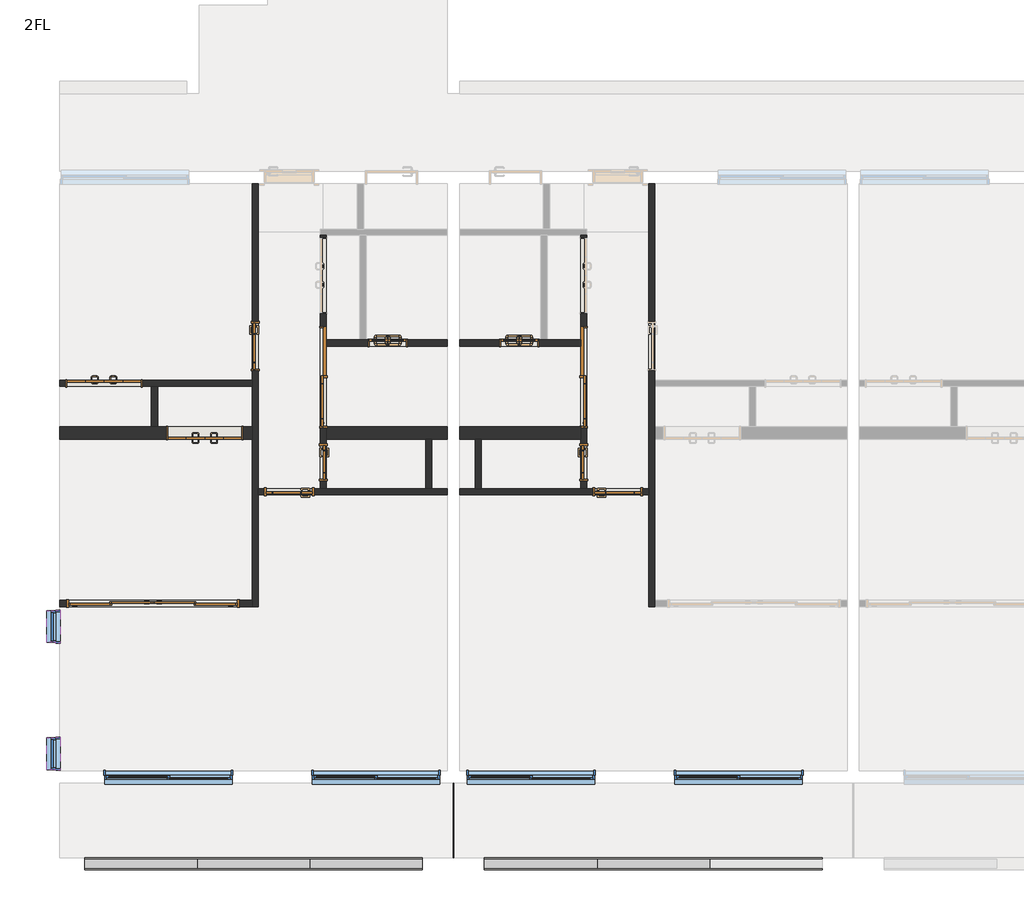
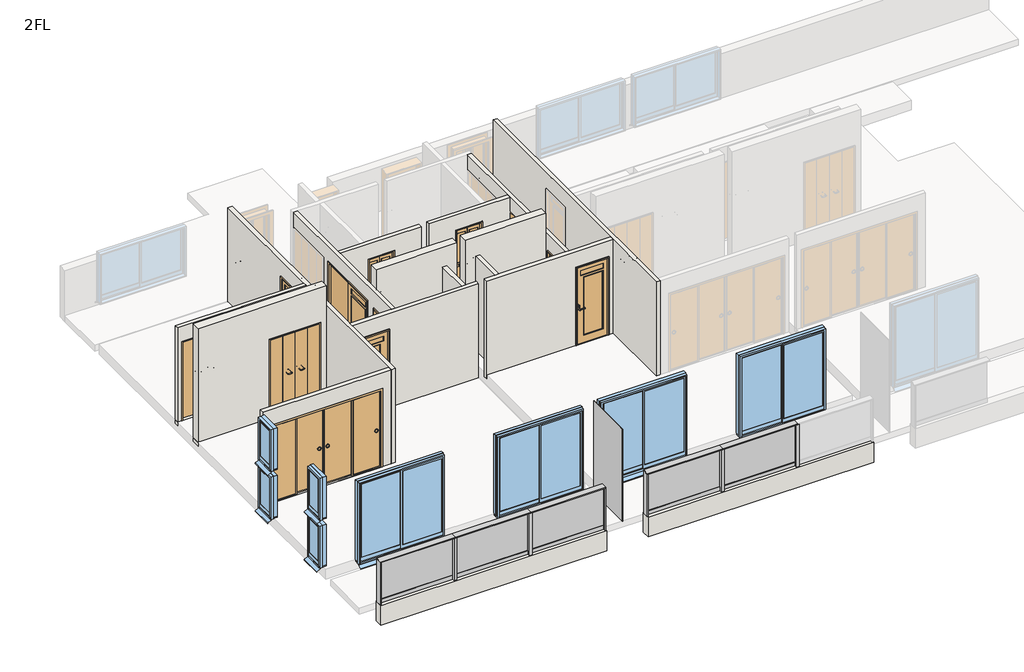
# One storey, part 1 of 3: 18 walls, 12 doors, 12 members, 8 windows, 6 plates.
"""IFC4 building model written with IfcOpenShell, lengths in millimetres."""

from ifc_helpers import new_model, si_unit, frame, origin, place, context, project, spatial, polyline, outline, extrude, faceted_brep, transform, mapped, element, save
from components import w1200h2000_6a144d60, w1200h2000_98cacc9b, w1600h2000_4c3c234a, w1600h2000_ca690e72, w2800h2000_670b855b, w600h2000_7f2747f4, w600h2000_6a266bef, w600h2000_94bb9c3c, w600h2000_8ea70a65, w800h2000_13e9f519, w800h2000_ccb03061, member_25x150_3f8205e2, member_25x150_f694351b, member_70x150_851c8a9b, plate_9f48129f, plate_365944b3, plate_cef4847d, window_2000x2000_f1ff98da, window_450x1000_e0a5e2da

model = new_model("IFC4")

# Units and contexts
model_context = context("Model", 3, world=origin())
ifc_project = project(units=[si_unit("LENGTHUNIT", "METRE", prefix="MILLI")], contexts=[model_context])

# Site, building, storey
site = spatial("IfcSite", under=ifc_project)
building = spatial("IfcBuilding", under=site)
storey = spatial("IfcBuildingStorey", under=building, Name="2FL", Elevation=4000.0)

# Doors
placement = place(None, origin())
w1200h2000_shape = w1200h2000_6a144d60(model_context)
element("IfcDoor", 1, ObjectType="木製折戸 : w1200h2000", at=placement, inside=storey, context=model_context, shape_type="MappedRepresentation", body=[
    mapped(w1200h2000_shape, transform((-10366.2187246, -9020.1171638, 4100.0), x_axis=(1.0, 0.0, 0.0), y_axis=(0.0, 1.0, 0.0), z_axis=(0.0, 0.0, 1.0))),
])
w1200h2000_2_shape = w1200h2000_98cacc9b(model_context)
element("IfcDoor", 2, ObjectType="木製折戸 : w1200h2000", at=placement, inside=storey, context=model_context, shape_type="MappedRepresentation", body=[
    mapped(w1200h2000_2_shape, transform((-8741.2187246, -9820.1171638, 4100.0), x_axis=(-1.0, 0.0, 0.0), y_axis=(0.0, -1.0, 0.0), z_axis=(0.0, 0.0, 1.0))),
])
w1600h2000_shape = w1600h2000_4c3c234a(model_context)
element("IfcDoor", 3, ObjectType="片引戸CL2017 : w1600h2000", at=placement, inside=storey, context=model_context, shape_type="MappedRepresentation", body=[
    mapped(w1600h2000_shape, transform((-6828.7187246, -8920.1171638, 4100.0), x_axis=(0.0, -1.0, 0.0), y_axis=(1.0, 0.0, 0.0), z_axis=(0.0, 0.0, 1.0))),
])
w1600h2000_2_shape = w1600h2000_ca690e72(model_context)
element("IfcDoor", 4, ObjectType="片引戸CL2017 : w1600h2000", at=placement, inside=storey, context=model_context, shape_type="MappedRepresentation", body=[
    mapped(w1600h2000_2_shape, transform((-2628.7187246, -8920.1171638, 4100.0), x_axis=(0.0, -1.0, 0.0), y_axis=(1.0, 0.0, 0.0), z_axis=(0.0, 0.0, 1.0))),
])
w2800h2000_shape = w2800h2000_670b855b(model_context)
element("IfcDoor", 5, ObjectType="引違い 4 枚 2 溝_襖 : w2800h2000", at=placement, inside=storey, context=model_context, shape_type="MappedRepresentation", body=[
    mapped(w2800h2000_shape, transform((-9584.2542286, -12570.1171638, 4100.0), x_axis=(-1.0, 0.0, 0.0), y_axis=(0.0, -1.0, 0.0), z_axis=(0.0, 0.0, 1.0))),
])
w600h2000_shape = w600h2000_7f2747f4(model_context)
element("IfcDoor", 6, ObjectType="片開戸CL2058 : w600h2000", at=placement, inside=storey, context=model_context, shape_type="MappedRepresentation", body=[
    mapped(w600h2000_shape, transform((-6828.7187246, -10295.1171638, 4100.0), x_axis=(0.0, -1.0, 0.0), y_axis=(1.0, 0.0, 0.0), z_axis=(0.0, 0.0, 1.0))),
])
w600h2000_2_shape = w600h2000_6a266bef(model_context)
element("IfcDoor", 7, ObjectType="浴室折戸 : w600h2000", at=placement, inside=storey, context=model_context, shape_type="MappedRepresentation", body=[
    mapped(w600h2000_2_shape, transform((-5788.7187246, -8370.1171638, 4100.0), x_axis=(1.0, 0.0, 0.0), y_axis=(0.0, 1.0, 0.0), z_axis=(0.0, 0.0, 1.0))),
])
w600h2000_3_shape = w600h2000_94bb9c3c(model_context)
element("IfcDoor", 8, ObjectType="浴室折戸 : w600h2000", at=placement, inside=storey, context=model_context, shape_type="MappedRepresentation", body=[
    mapped(w600h2000_3_shape, transform((-3668.7187246, -8370.1171638, 4100.0), x_axis=(-1.0, 0.0, 0.0), y_axis=(0.0, -1.0, 0.0), z_axis=(0.0, 0.0, 1.0))),
])
w600h2000_4_shape = w600h2000_8ea70a65(model_context)
element("IfcDoor", 9, ObjectType="片開戸CL2058 : w600h2000", at=placement, inside=storey, context=model_context, shape_type="MappedRepresentation", body=[
    mapped(w600h2000_4_shape, transform((-2628.7187246, -10295.1171638, 4100.0), x_axis=(0.0, -1.0, 0.0), y_axis=(1.0, 0.0, 0.0), z_axis=(0.0, 0.0, 1.0))),
])
w800h2000_shape = w800h2000_13e9f519(model_context)
element("IfcDoor", 10, ObjectType="片開戸CL2058 : w800h2000", at=placement, inside=storey, context=model_context, shape_type="MappedRepresentation", body=[
    mapped(w800h2000_shape, transform((-7928.7187246, -8420.1171638, 4100.0), x_axis=(0.0, -1.0, 0.0), y_axis=(1.0, 0.0, 0.0), z_axis=(0.0, 0.0, 1.0))),
])
element("IfcDoor", 11, ObjectType="片開戸CL2058 : w800h2000", at=placement, inside=storey, context=model_context, shape_type="MappedRepresentation", body=[
    mapped(w800h2000_shape, transform((-2078.7187246, -10770.1171638, 4100.0), x_axis=(1.0, 0.0, 0.0), y_axis=(0.0, 1.0, 0.0), z_axis=(0.0, 0.0, 1.0))),
])
w800h2000_2_shape = w800h2000_ccb03061(model_context)
element("IfcDoor", 12, ObjectType="片開戸CL2058 : w800h2000", at=placement, inside=storey, context=model_context, shape_type="MappedRepresentation", body=[
    mapped(w800h2000_2_shape, transform((-7378.7187246, -10770.1171638, 4100.0), x_axis=(-1.0, 0.0, 0.0), y_axis=(0.0, -1.0, 0.0), z_axis=(0.0, 0.0, 1.0))),
])

# Members
member_25x150_shape = member_25x150_3f8205e2(model_context)
element("IfcMember", 13, ObjectType="長方形のマリオン : 25x150", at=placement, inside=storey, context=model_context, shape_type="MappedRepresentation", body=[
    mapped(member_25x150_shape, transform((-5228.7187246, -16770.1171638, 4000.0), x_axis=(1.0, 0.0, 0.0), y_axis=(0.0, -1.0, 0.0), z_axis=(0.0, 0.0, -1.0))),
])
element("IfcMember", 14, ObjectType="長方形のマリオン : 25x150", at=placement, inside=storey, context=model_context, shape_type="MappedRepresentation", body=[
    mapped(member_25x150_shape, transform((-10678.7187246, -16770.1171638, 5075.0), x_axis=(-1.0, 0.0, 0.0), y_axis=(0.0, -1.0, 0.0), z_axis=(0.0, 0.0, 1.0))),
])
element("IfcMember", 15, ObjectType="長方形のマリオン : 25x150", at=placement, inside=storey, context=model_context, shape_type="MappedRepresentation", body=[
    mapped(member_25x150_shape, transform((-4228.7187246, -16770.1171638, 5075.0), x_axis=(-1.0, 0.0, 0.0), y_axis=(0.0, -1.0, 0.0), z_axis=(0.0, 0.0, 1.0))),
])
member_25x150_2_shape = member_25x150_f694351b(model_context)
element("IfcMember", 16, ObjectType="長方形のマリオン : 25x150", at=placement, inside=storey, context=model_context, shape_type="MappedRepresentation", body=[
    mapped(member_25x150_2_shape, transform((-5228.7187246, -16770.1171638, 5100.0), x_axis=(0.0, 0.0, 1.0), y_axis=(0.0, -1.0, 0.0), z_axis=(1.0, 0.0, 0.0))),
])
element("IfcMember", 17, ObjectType="長方形のマリオン : 25x150", at=placement, inside=storey, context=model_context, shape_type="MappedRepresentation", body=[
    mapped(member_25x150_2_shape, transform((-8862.052058, -16770.1171638, 5100.0), x_axis=(0.0, 0.0, 1.0), y_axis=(0.0, -1.0, 0.0), z_axis=(1.0, 0.0, 0.0))),
])
element("IfcMember", 18, ObjectType="長方形のマリオン : 25x150", at=placement, inside=storey, context=model_context, shape_type="MappedRepresentation", body=[
    mapped(member_25x150_2_shape, transform((-2412.052058, -16770.1171638, 5100.0), x_axis=(0.0, 0.0, 1.0), y_axis=(0.0, -1.0, 0.0), z_axis=(1.0, 0.0, 0.0))),
])
element("IfcMember", 19, ObjectType="長方形のマリオン : 25x150", at=placement, inside=storey, context=model_context, shape_type="MappedRepresentation", body=[
    mapped(member_25x150_2_shape, transform((-7045.3853913, -16770.1171638, 5100.0), x_axis=(0.0, 0.0, 1.0), y_axis=(0.0, -1.0, 0.0), z_axis=(1.0, 0.0, 0.0))),
])
element("IfcMember", 20, ObjectType="長方形のマリオン : 25x150", at=placement, inside=storey, context=model_context, shape_type="MappedRepresentation", body=[
    mapped(member_25x150_2_shape, transform((-595.3853913, -16770.1171638, 5100.0), x_axis=(0.0, 0.0, 1.0), y_axis=(0.0, -1.0, 0.0), z_axis=(1.0, 0.0, 0.0))),
])
member_70x150_shape = member_70x150_851c8a9b(model_context)
element("IfcMember", 21, ObjectType="長方形のマリオン : 70x150", at=placement, inside=storey, context=model_context, shape_type="MappedRepresentation", body=[
    mapped(member_70x150_shape, transform((-8862.052058, -16770.1171638, 4000.0), x_axis=(1.0, 0.0, 0.0), y_axis=(0.0, -1.0, 0.0), z_axis=(0.0, 0.0, -1.0))),
])
element("IfcMember", 22, ObjectType="長方形のマリオン : 70x150", at=placement, inside=storey, context=model_context, shape_type="MappedRepresentation", body=[
    mapped(member_70x150_shape, transform((-7045.3853913, -16770.1171638, 4000.0), x_axis=(1.0, 0.0, 0.0), y_axis=(0.0, -1.0, 0.0), z_axis=(0.0, 0.0, -1.0))),
])
element("IfcMember", 23, ObjectType="長方形のマリオン : 70x150", at=placement, inside=storey, context=model_context, shape_type="MappedRepresentation", body=[
    mapped(member_70x150_shape, transform((-2412.052058, -16770.1171638, 4000.0), x_axis=(1.0, 0.0, 0.0), y_axis=(0.0, -1.0, 0.0), z_axis=(0.0, 0.0, -1.0))),
])
element("IfcMember", 24, ObjectType="長方形のマリオン : 70x150", at=placement, inside=storey, context=model_context, shape_type="MappedRepresentation", body=[
    mapped(member_70x150_shape, transform((-595.3853913, -16770.1171638, 4000.0), x_axis=(1.0, 0.0, 0.0), y_axis=(0.0, -1.0, 0.0), z_axis=(0.0, 0.0, -1.0))),
])

# Plates
plate_shape = plate_9f48129f(model_context)
element("IfcPlate", 25, ObjectType="r パネル FIX 下框付 : 框 H100", at=placement, inside=storey, context=model_context, shape_type="MappedRepresentation", body=[
    mapped(plate_shape, transform((-9775.3853913, -16770.1171638, 4000.0), x_axis=(1.0, 0.0, 0.0), y_axis=(0.0, 1.0, 0.0), z_axis=(0.0, 0.0, 1.0))),
])
element("IfcPlate", 26, ObjectType="r パネル FIX 下框付 : 框 H100", at=placement, inside=storey, context=model_context, shape_type="MappedRepresentation", body=[
    mapped(plate_shape, transform((-6132.052058, -16770.1171638, 4000.0), x_axis=(1.0, 0.0, 0.0), y_axis=(0.0, 1.0, 0.0), z_axis=(0.0, 0.0, 1.0))),
])
element("IfcPlate", 27, ObjectType="r パネル FIX 下框付 : 框 H100", at=placement, inside=storey, context=model_context, shape_type="MappedRepresentation", body=[
    mapped(plate_shape, transform((-3325.3853913, -16770.1171638, 4000.0), x_axis=(1.0, 0.0, 0.0), y_axis=(0.0, 1.0, 0.0), z_axis=(0.0, 0.0, 1.0))),
])
plate_2_shape = plate_365944b3(model_context)
element("IfcPlate", 28, ObjectType="r パネル FIX 下框付 : 框 H100", at=placement, inside=storey, context=model_context, shape_type="MappedRepresentation", body=[
    mapped(plate_2_shape, transform((-7953.7187246, -16770.1171638, 4000.0), x_axis=(1.0, 0.0, 0.0), y_axis=(0.0, 1.0, 0.0), z_axis=(0.0, 0.0, 1.0))),
])
element("IfcPlate", 29, ObjectType="r パネル FIX 下框付 : 框 H100", at=placement, inside=storey, context=model_context, shape_type="MappedRepresentation", body=[
    mapped(plate_2_shape, transform((-1503.7187246, -16770.1171638, 4000.0), x_axis=(1.0, 0.0, 0.0), y_axis=(0.0, 1.0, 0.0), z_axis=(0.0, 0.0, 1.0))),
])
plate_3_shape = plate_cef4847d(model_context)
element("IfcPlate", 30, ObjectType="システム パネル : 標準", at=placement, inside=storey, context=model_context, shape_type="MappedRepresentation", body=[
    mapped(plate_3_shape, transform((-4728.7187246, -16070.1171638, 3950.0), x_axis=(0.0, -1.0, 0.0), y_axis=(1.0, 0.0, 0.0), z_axis=(0.0, 0.0, 1.0))),
])

# Walls
element("IfcWall", 31, ObjectType="(R)RC200", at=placement, inside=storey, context=model_context, shape_type="Brep", body=[
    faceted_brep([(-11078.7187246, -9920.1171638, 4000.0), (-7978.7187246, -9920.1171638, 4000.0), (-7978.7187246, -9920.1171638, 7000.0), (-11078.7187246, -9920.1171638, 7000.0), (-9361.2187246, -9920.1171638, 6120.0), (-8121.2187246, -9920.1171638, 6120.0), (-8121.2187246, -9920.1171638, 4100.0), (-9361.2187246, -9920.1171638, 4100.0), (-11078.7187246, -9720.1171638, 4000.0), (-11078.7187246, -9720.1171638, 7000.0), (-7978.7187246, -9720.1171638, 7000.0), (-7978.7187246, -9720.1171638, 4000.0), (-9503.7187246, -9720.1171638, 4000.0), (-9603.7187246, -9720.1171638, 4000.0), (-9361.2187246, -9720.1171638, 6120.0), (-9361.2187246, -9720.1171638, 4100.0), (-8121.2187246, -9720.1171638, 4100.0), (-8121.2187246, -9720.1171638, 6120.0)], [[[0, 1, 2, 3], [4, 5, 6, 7]], [[8, 9, 10, 11, 12, 13], [14, 15, 16, 17]], [[1, 0, 8, 13, 12, 11]], [[3, 2, 10, 9]], [[2, 1, 11, 10]], [[15, 14, 4, 7]], [[16, 15, 7, 6]], [[17, 16, 6, 5]], [[14, 17, 5, 4]], [[0, 3, 9, 8]]]),
])
element("IfcWall", 32, ObjectType="(R)RC200", at=placement, inside=storey, context=model_context, shape_type="Brep", body=[
    faceted_brep([(-6778.7187246, -9920.1171638, 4000.0), (-5178.7187246, -9920.1171638, 4000.0), (-5078.7187246, -9920.1171638, 4000.0), (-4828.7187246, -9920.1171638, 4000.0), (-4828.7187246, -9920.1171638, 7000.0), (-6778.7187246, -9920.1171638, 7000.0), (-6778.7187246, -9720.1171638, 4000.0), (-6778.7187246, -9720.1171638, 7000.0), (-4828.7187246, -9720.1171638, 7000.0), (-4828.7187246, -9720.1171638, 4000.0)], [[[0, 1, 2, 3, 4, 5]], [[6, 7, 8, 9]], [[3, 2, 1, 0, 6, 9]], [[5, 4, 8, 7]], [[0, 5, 7, 6]], [[4, 3, 9, 8]]]),
])
element("IfcWall", 33, ObjectType="(R)RC200", at=placement, inside=storey, context=model_context, shape_type="Brep", body=[
    faceted_brep([(-2678.7187246, -9720.1171638, 4000.0), (-4628.7187246, -9720.1171638, 4000.0), (-4628.7187246, -9720.1171638, 7000.0), (-2678.7187246, -9720.1171638, 7000.0), (-2678.7187246, -9920.1171638, 4000.0), (-2678.7187246, -9920.1171638, 7000.0), (-4628.7187246, -9920.1171638, 7000.0), (-4628.7187246, -9920.1171638, 4000.0), (-4378.7187246, -9920.1171638, 4000.0), (-4278.7187246, -9920.1171638, 4000.0)], [[[0, 1, 2, 3]], [[4, 5, 6, 7, 8, 9]], [[1, 0, 4, 9, 8, 7]], [[3, 2, 6, 5]], [[0, 3, 5, 4]], [[2, 1, 7, 6]]]),
])
element("IfcWall", 34, ObjectType="(R)RC200", at=placement, inside=storey, context=model_context, shape_type="SweptSolid", body=[
    extrude(outline(polyline([(-5228.7187246, -16870.1171638), (-10678.7187246, -16870.1171638), (-10678.7187246, -16670.1171638), (-5228.7187246, -16670.1171638), (-5228.7187246, -16870.1171638)])), frame((0.0, 0.0, 3500.0), z_axis=(0.0, 0.0, 1.0), x_axis=(1.0, 0.0, 0.0)), (0.0, 0.0, 1.0), 500.0),
])
element("IfcWall", 35, ObjectType="(R)RC200", at=placement, inside=storey, context=model_context, shape_type="SweptSolid", body=[
    extrude(outline(polyline([(1221.2812754, -16870.1171638), (-4228.7187246, -16870.1171638), (-4228.7187246, -16670.1171638), (1221.2812754, -16670.1171638), (1221.2812754, -16870.1171638)])), frame((0.0, 0.0, 3500.0), z_axis=(0.0, 0.0, 1.0), x_axis=(1.0, 0.0, 0.0)), (0.0, 0.0, 1.0), 500.0),
])
element("IfcWall", 36, ObjectType="(L1)LGS100", at=placement, inside=storey, context=model_context, shape_type="Brep", body=[
    faceted_brep([(-11078.7187246, -9070.1171638, 4000.0), (-9603.7187246, -9070.1171638, 4000.0), (-9503.7187246, -9070.1171638, 4000.0), (-7978.7187246, -9070.1171638, 4000.0), (-7978.7187246, -9070.1171638, 6500.0), (-9503.7187246, -9070.1171638, 6500.0), (-9603.7187246, -9070.1171638, 6500.0), (-11078.7187246, -9070.1171638, 6500.0), (-9746.2187246, -9070.1171638, 6120.0), (-9746.2187246, -9070.1171638, 4100.0), (-10986.2187246, -9070.1171638, 4100.0), (-10986.2187246, -9070.1171638, 6120.0), (-7978.7187246, -8970.1171638, 4000.0), (-11078.7187246, -8970.1171638, 4000.0), (-11078.7187246, -8970.1171638, 6500.0), (-7978.7187246, -8970.1171638, 6500.0), (-9746.2187246, -8970.1171638, 4100.0), (-9746.2187246, -8970.1171638, 6120.0), (-10986.2187246, -8970.1171638, 6120.0), (-10986.2187246, -8970.1171638, 4100.0)], [[[0, 1, 2, 3, 4, 5, 6, 7], [8, 9, 10, 11]], [[12, 13, 14, 15], [16, 17, 18, 19]], [[3, 2, 1, 0, 13, 12]], [[7, 6, 5, 4, 15, 14]], [[4, 3, 12, 15]], [[8, 17, 16, 9]], [[9, 16, 19, 10]], [[17, 8, 11, 18]], [[18, 11, 10, 19]], [[0, 7, 14, 13]]]),
])
element("IfcWall", 37, ObjectType="(L1)LGS100", at=placement, inside=storey, context=model_context, shape_type="SweptSolid", body=[
    extrude(outline(polyline([(-9503.7187246, -9070.1171638), (-9503.7187246, -9720.1171638), (-9603.7187246, -9720.1171638), (-9603.7187246, -9070.1171638), (-9503.7187246, -9070.1171638)])), frame((0.0, 0.0, 4000.0), z_axis=(0.0, 0.0, 1.0), x_axis=(1.0, 0.0, 0.0)), (0.0, 0.0, 1.0), 2500.0),
])
element("IfcWall", 38, ObjectType="(L1)LGS100", at=placement, inside=storey, context=model_context, shape_type="Brep", body=[
    faceted_brep([(-7878.7187246, -12620.1171638, 4000.0), (-7878.7187246, -10820.1171638, 4000.0), (-7878.7187246, -10720.1171638, 4000.0), (-7878.7187246, -5800.1171638, 4000.0), (-7878.7187246, -5800.1171638, 6500.0), (-7878.7187246, -10720.1171638, 6500.0), (-7878.7187246, -10820.1171638, 6500.0), (-7878.7187246, -12620.1171638, 6500.0), (-7878.7187246, -8820.1171638, 4100.0), (-7878.7187246, -8820.1171638, 6100.0), (-7878.7187246, -8020.1171638, 6100.0), (-7878.7187246, -8020.1171638, 4100.0), (-7978.7187246, -12620.1171638, 4000.0), (-7978.7187246, -12620.1171638, 6500.0), (-7978.7187246, -12520.1171638, 6500.0), (-7978.7187246, -9070.1171638, 6500.0), (-7978.7187246, -8970.1171638, 6500.0), (-7978.7187246, -5800.1171638, 6500.0), (-7978.7187246, -5800.1171638, 4000.0), (-7978.7187246, -8970.1171638, 4000.0), (-7978.7187246, -9070.1171638, 4000.0), (-7978.7187246, -9720.1171638, 4000.0), (-7978.7187246, -9920.1171638, 4000.0), (-7978.7187246, -12520.1171638, 4000.0), (-7978.7187246, -8820.1171638, 4100.0), (-7978.7187246, -8020.1171638, 4100.0), (-7978.7187246, -8020.1171638, 6100.0), (-7978.7187246, -8820.1171638, 6100.0)], [[[0, 1, 2, 3, 4, 5, 6, 7], [8, 9, 10, 11]], [[12, 13, 14, 15, 16, 17, 18, 19, 20, 21, 22, 23], [24, 25, 26, 27]], [[3, 2, 1, 0, 12, 23, 22, 21, 20, 19, 18]], [[7, 6, 5, 4, 17, 16, 15, 14, 13]], [[0, 7, 13, 12]], [[9, 8, 24, 27]], [[10, 9, 27, 26]], [[11, 10, 26, 25]], [[8, 11, 25, 24]], [[4, 3, 18, 17]]]),
])
element("IfcWall", 39, ObjectType="(L1)LGS100", at=placement, inside=storey, context=model_context, shape_type="Brep", body=[
    faceted_brep([(-6778.7187246, -8420.1171638, 4000.0), (-4828.7187246, -8420.1171638, 4000.0), (-4828.7187246, -8420.1171638, 6500.0), (-6778.7187246, -8420.1171638, 6500.0), (-5468.7187246, -8420.1171638, 6120.0), (-5468.7187246, -8420.1171638, 4100.0), (-6108.7187246, -8420.1171638, 4100.0), (-6108.7187246, -8420.1171638, 6120.0), (-6778.7187246, -8320.1171638, 4000.0), (-6778.7187246, -8320.1171638, 6500.0), (-6238.7187246, -8320.1171638, 6500.0), (-6138.7187246, -8320.1171638, 6500.0), (-4828.7187246, -8320.1171638, 6500.0), (-4828.7187246, -8320.1171638, 4000.0), (-6138.7187246, -8320.1171638, 4000.0), (-6238.7187246, -8320.1171638, 4000.0), (-5468.7187246, -8320.1171638, 6120.0), (-6108.7187246, -8320.1171638, 6120.0), (-6108.7187246, -8320.1171638, 4100.0), (-5468.7187246, -8320.1171638, 4100.0)], [[[0, 1, 2, 3], [4, 5, 6, 7]], [[8, 9, 10, 11, 12, 13, 14, 15], [16, 17, 18, 19]], [[1, 0, 8, 15, 14, 13]], [[3, 2, 12, 11, 10, 9]], [[0, 3, 9, 8]], [[5, 4, 16, 19]], [[6, 5, 19, 18]], [[7, 6, 18, 17]], [[4, 7, 17, 16]], [[2, 1, 13, 12]]]),
])
element("IfcWall", 40, ObjectType="(L1)LGS100", at=placement, inside=storey, context=model_context, shape_type="Brep", body=[
    faceted_brep([(-6778.7187246, -10720.1171638, 4000.0), (-6778.7187246, -9920.1171638, 4000.0), (-6778.7187246, -9720.1171638, 4000.0), (-6778.7187246, -8420.1171638, 4000.0), (-6778.7187246, -8320.1171638, 4000.0), (-6778.7187246, -6630.1171638, 4000.0), (-6778.7187246, -6630.1171638, 6500.0), (-6778.7187246, -8320.1171638, 6500.0), (-6778.7187246, -8420.1171638, 6500.0), (-6778.7187246, -10720.1171638, 6500.0), (-6778.7187246, -10595.1171638, 4100.0), (-6778.7187246, -10595.1171638, 6100.0), (-6778.7187246, -9995.1171638, 6100.0), (-6778.7187246, -9995.1171638, 4100.0), (-6778.7187246, -6660.1171638, 4100.0), (-6778.7187246, -7900.1171638, 4100.0), (-6778.7187246, -7900.1171638, 6120.0), (-6778.7187246, -6660.1171638, 6120.0), (-6778.7187246, -9745.1171638, 4100.0), (-6778.7187246, -9745.1171638, 6140.0), (-6778.7187246, -8095.1171638, 6140.0), (-6778.7187246, -8095.1171638, 4100.0), (-6878.7187246, -6630.1171638, 4000.0), (-6878.7187246, -10720.1171638, 4000.0), (-6878.7187246, -10720.1171638, 6500.0), (-6878.7187246, -6630.1171638, 6500.0), (-6878.7187246, -10595.1171638, 4100.0), (-6878.7187246, -9995.1171638, 4100.0), (-6878.7187246, -9995.1171638, 6100.0), (-6878.7187246, -10595.1171638, 6100.0), (-6878.7187246, -7900.1171638, 4100.0), (-6878.7187246, -6660.1171638, 4100.0), (-6878.7187246, -6660.1171638, 6120.0), (-6878.7187246, -7900.1171638, 6120.0), (-6878.7187246, -9745.1171638, 4100.0), (-6878.7187246, -8095.1171638, 4100.0), (-6878.7187246, -8095.1171638, 6140.0), (-6878.7187246, -9745.1171638, 6140.0)], [[[0, 1, 2, 3, 4, 5, 6, 7, 8, 9], [10, 11, 12, 13], [14, 15, 16, 17], [18, 19, 20, 21]], [[22, 23, 24, 25], [26, 27, 28, 29], [30, 31, 32, 33], [34, 35, 36, 37]], [[5, 4, 3, 2, 1, 0, 23, 22]], [[9, 8, 7, 6, 25, 24]], [[0, 9, 24, 23]], [[11, 10, 26, 29]], [[12, 11, 29, 28]], [[13, 12, 28, 27]], [[10, 13, 27, 26]], [[14, 31, 30, 15]], [[15, 30, 33, 16]], [[16, 33, 32, 17]], [[19, 18, 34, 37]], [[20, 19, 37, 36]], [[21, 20, 36, 35]], [[18, 21, 35, 34]], [[31, 14, 17, 32]], [[6, 5, 22, 25]]]),
])
element("IfcWall", 41, ObjectType="(L1)LGS100", at=placement, inside=storey, context=model_context, shape_type="SweptSolid", body=[
    extrude(outline(polyline([(-5078.7187246, -9920.1171638), (-5078.7187246, -10720.1171638), (-5178.7187246, -10720.1171638), (-5178.7187246, -9920.1171638), (-5078.7187246, -9920.1171638)])), frame((0.0, 0.0, 4000.0), z_axis=(0.0, 0.0, 1.0), x_axis=(1.0, 0.0, 0.0)), (0.0, 0.0, 1.0), 2500.0),
])
element("IfcWall", 42, ObjectType="(L1)LGS100", at=placement, inside=storey, context=model_context, shape_type="Brep", body=[
    faceted_brep([(-7878.7187246, -10820.1171638, 4000.0), (-4828.7187246, -10820.1171638, 4000.0), (-4828.7187246, -10820.1171638, 6500.0), (-7878.7187246, -10820.1171638, 6500.0), (-7778.7187246, -10820.1171638, 4100.0), (-7778.7187246, -10820.1171638, 6100.0), (-6978.7187246, -10820.1171638, 6100.0), (-6978.7187246, -10820.1171638, 4100.0), (-4828.7187246, -10720.1171638, 4000.0), (-5078.7187246, -10720.1171638, 4000.0), (-5178.7187246, -10720.1171638, 4000.0), (-6778.7187246, -10720.1171638, 4000.0), (-6878.7187246, -10720.1171638, 4000.0), (-7878.7187246, -10720.1171638, 4000.0), (-7878.7187246, -10720.1171638, 6500.0), (-6878.7187246, -10720.1171638, 6500.0), (-6778.7187246, -10720.1171638, 6500.0), (-5178.7187246, -10720.1171638, 6500.0), (-5078.7187246, -10720.1171638, 6500.0), (-4828.7187246, -10720.1171638, 6500.0), (-7778.7187246, -10720.1171638, 6100.0), (-7778.7187246, -10720.1171638, 4100.0), (-6978.7187246, -10720.1171638, 4100.0), (-6978.7187246, -10720.1171638, 6100.0)], [[[0, 1, 2, 3], [4, 5, 6, 7]], [[8, 9, 10, 11, 12, 13, 14, 15, 16, 17, 18, 19], [20, 21, 22, 23]], [[1, 0, 13, 12, 11, 10, 9, 8]], [[3, 2, 19, 18, 17, 16, 15, 14]], [[0, 3, 14, 13]], [[4, 21, 20, 5]], [[5, 20, 23, 6]], [[6, 23, 22, 7]], [[21, 4, 7, 22]], [[2, 1, 8, 19]]]),
])
element("IfcWall", 43, ObjectType="(L1)LGS100", at=placement, inside=storey, context=model_context, shape_type="SweptSolid", body=[
    extrude(outline(polyline([(4000.0, -11078.7187246), (4000.0, -7978.7187246), (6500.0, -7978.7187246), (6500.0, -11078.7187246), (4000.0, -11078.7187246)]), holes=[polyline([(6100.0, -10978.7187246), (6100.0, -8178.7187246), (4100.0, -8178.7187246), (4100.0, -10978.7187246), (6100.0, -10978.7187246)])]), frame((0.0, -12620.1171638, 0.0), z_axis=(0.0, 1.0, 0.0), x_axis=(0.0, 0.0, 1.0)), (0.0, 0.0, 1.0), 100.0),
])
element("IfcWall", 44, ObjectType="(L1)LGS100", at=placement, inside=storey, context=model_context, shape_type="Brep", body=[
    faceted_brep([(-1478.7187246, -12620.1171638, 4000.0), (-1478.7187246, -12520.1171638, 4000.0), (-1478.7187246, -9920.1171638, 4000.0), (-1478.7187246, -9720.1171638, 4000.0), (-1478.7187246, -9070.1171638, 4000.0), (-1478.7187246, -8970.1171638, 4000.0), (-1478.7187246, -5800.1171638, 4000.0), (-1478.7187246, -5800.1171638, 6500.0), (-1478.7187246, -8970.1171638, 6500.0), (-1478.7187246, -9070.1171638, 6500.0), (-1478.7187246, -12520.1171638, 6500.0), (-1478.7187246, -12620.1171638, 6500.0), (-1478.7187246, -8820.1171638, 4100.0), (-1478.7187246, -8820.1171638, 6100.0), (-1478.7187246, -8020.1171638, 6100.0), (-1478.7187246, -8020.1171638, 4100.0), (-1578.7187246, -12620.1171638, 4000.0), (-1578.7187246, -12620.1171638, 6500.0), (-1578.7187246, -10820.1171638, 6500.0), (-1578.7187246, -10720.1171638, 6500.0), (-1578.7187246, -5800.1171638, 6500.0), (-1578.7187246, -5800.1171638, 4000.0), (-1578.7187246, -10720.1171638, 4000.0), (-1578.7187246, -10820.1171638, 4000.0), (-1578.7187246, -8820.1171638, 4100.0), (-1578.7187246, -8020.1171638, 4100.0), (-1578.7187246, -8020.1171638, 6100.0), (-1578.7187246, -8820.1171638, 6100.0)], [[[0, 1, 2, 3, 4, 5, 6, 7, 8, 9, 10, 11], [12, 13, 14, 15]], [[16, 17, 18, 19, 20, 21, 22, 23], [24, 25, 26, 27]], [[6, 5, 4, 3, 2, 1, 0, 16, 23, 22, 21]], [[11, 10, 9, 8, 7, 20, 19, 18, 17]], [[0, 11, 17, 16]], [[13, 12, 24, 27]], [[14, 13, 27, 26]], [[15, 14, 26, 25]], [[12, 15, 25, 24]], [[7, 6, 21, 20]]]),
])
element("IfcWall", 45, ObjectType="(L1)LGS100", at=placement, inside=storey, context=model_context, shape_type="Brep", body=[
    faceted_brep([(-2678.7187246, -8320.1171638, 4000.0), (-3218.7187246, -8320.1171638, 4000.0), (-3318.7187246, -8320.1171638, 4000.0), (-4628.7187246, -8320.1171638, 4000.0), (-4628.7187246, -8320.1171638, 6500.0), (-3318.7187246, -8320.1171638, 6500.0), (-3218.7187246, -8320.1171638, 6500.0), (-2678.7187246, -8320.1171638, 6500.0), (-3988.7187246, -8320.1171638, 6120.0), (-3988.7187246, -8320.1171638, 4100.0), (-3348.7187246, -8320.1171638, 4100.0), (-3348.7187246, -8320.1171638, 6120.0), (-2678.7187246, -8420.1171638, 4000.0), (-2678.7187246, -8420.1171638, 6500.0), (-4628.7187246, -8420.1171638, 6500.0), (-4628.7187246, -8420.1171638, 4000.0), (-3988.7187246, -8420.1171638, 6120.0), (-3348.7187246, -8420.1171638, 6120.0), (-3348.7187246, -8420.1171638, 4100.0), (-3988.7187246, -8420.1171638, 4100.0)], [[[0, 1, 2, 3, 4, 5, 6, 7], [8, 9, 10, 11]], [[12, 13, 14, 15], [16, 17, 18, 19]], [[3, 2, 1, 0, 12, 15]], [[7, 6, 5, 4, 14, 13]], [[0, 7, 13, 12]], [[9, 8, 16, 19]], [[10, 9, 19, 18]], [[11, 10, 18, 17]], [[8, 11, 17, 16]], [[4, 3, 15, 14]]]),
])
element("IfcWall", 46, ObjectType="(L1)LGS100", at=placement, inside=storey, context=model_context, shape_type="Brep", body=[
    faceted_brep([(-2578.7187246, -10720.1171638, 4000.0), (-2578.7187246, -6630.1171638, 4000.0), (-2578.7187246, -6630.1171638, 6500.0), (-2578.7187246, -10720.1171638, 6500.0), (-2578.7187246, -10595.1171638, 4100.0), (-2578.7187246, -10595.1171638, 6100.0), (-2578.7187246, -9995.1171638, 6100.0), (-2578.7187246, -9995.1171638, 4100.0), (-2578.7187246, -6660.1171638, 4100.0), (-2578.7187246, -7900.1171638, 4100.0), (-2578.7187246, -7900.1171638, 6120.0), (-2578.7187246, -6660.1171638, 6120.0), (-2578.7187246, -9745.1171638, 4100.0), (-2578.7187246, -9745.1171638, 6140.0), (-2578.7187246, -8095.1171638, 6140.0), (-2578.7187246, -8095.1171638, 4100.0), (-2678.7187246, -6630.1171638, 4000.0), (-2678.7187246, -8320.1171638, 4000.0), (-2678.7187246, -8420.1171638, 4000.0), (-2678.7187246, -9720.1171638, 4000.0), (-2678.7187246, -9920.1171638, 4000.0), (-2678.7187246, -10720.1171638, 4000.0), (-2678.7187246, -10720.1171638, 6500.0), (-2678.7187246, -8420.1171638, 6500.0), (-2678.7187246, -8320.1171638, 6500.0), (-2678.7187246, -6630.1171638, 6500.0), (-2678.7187246, -10595.1171638, 4100.0), (-2678.7187246, -9995.1171638, 4100.0), (-2678.7187246, -9995.1171638, 6100.0), (-2678.7187246, -10595.1171638, 6100.0), (-2678.7187246, -7900.1171638, 4100.0), (-2678.7187246, -6660.1171638, 4100.0), (-2678.7187246, -6660.1171638, 6120.0), (-2678.7187246, -7900.1171638, 6120.0), (-2678.7187246, -9745.1171638, 4100.0), (-2678.7187246, -8095.1171638, 4100.0), (-2678.7187246, -8095.1171638, 6140.0), (-2678.7187246, -9745.1171638, 6140.0)], [[[0, 1, 2, 3], [4, 5, 6, 7], [8, 9, 10, 11], [12, 13, 14, 15]], [[16, 17, 18, 19, 20, 21, 22, 23, 24, 25], [26, 27, 28, 29], [30, 31, 32, 33], [34, 35, 36, 37]], [[1, 0, 21, 20, 19, 18, 17, 16]], [[3, 2, 25, 24, 23, 22]], [[0, 3, 22, 21]], [[5, 4, 26, 29]], [[6, 5, 29, 28]], [[7, 6, 28, 27]], [[4, 7, 27, 26]], [[8, 31, 30, 9]], [[9, 30, 33, 10]], [[10, 33, 32, 11]], [[13, 12, 34, 37]], [[14, 13, 37, 36]], [[15, 14, 36, 35]], [[12, 15, 35, 34]], [[31, 8, 11, 32]], [[2, 1, 16, 25]]]),
])
element("IfcWall", 47, ObjectType="(L1)LGS100", at=placement, inside=storey, context=model_context, shape_type="SweptSolid", body=[
    extrude(outline(polyline([(-4278.7187246, -9920.1171638), (-4278.7187246, -10720.1171638), (-4378.7187246, -10720.1171638), (-4378.7187246, -9920.1171638), (-4278.7187246, -9920.1171638)])), frame((0.0, 0.0, 4000.0), z_axis=(0.0, 0.0, 1.0), x_axis=(1.0, 0.0, 0.0)), (0.0, 0.0, 1.0), 2500.0),
])
element("IfcWall", 48, ObjectType="(L1)LGS100", at=placement, inside=storey, context=model_context, shape_type="Brep", body=[
    faceted_brep([(-1578.7187246, -10720.1171638, 4000.0), (-2578.7187246, -10720.1171638, 4000.0), (-2678.7187246, -10720.1171638, 4000.0), (-4278.7187246, -10720.1171638, 4000.0), (-4378.7187246, -10720.1171638, 4000.0), (-4628.7187246, -10720.1171638, 4000.0), (-4628.7187246, -10720.1171638, 6500.0), (-4378.7187246, -10720.1171638, 6500.0), (-4278.7187246, -10720.1171638, 6500.0), (-2678.7187246, -10720.1171638, 6500.0), (-2578.7187246, -10720.1171638, 6500.0), (-1578.7187246, -10720.1171638, 6500.0), (-1678.7187246, -10720.1171638, 4100.0), (-1678.7187246, -10720.1171638, 6100.0), (-2478.7187246, -10720.1171638, 6100.0), (-2478.7187246, -10720.1171638, 4100.0), (-4628.7187246, -10820.1171638, 4000.0), (-1578.7187246, -10820.1171638, 4000.0), (-1578.7187246, -10820.1171638, 6500.0), (-4628.7187246, -10820.1171638, 6500.0), (-1678.7187246, -10820.1171638, 6100.0), (-1678.7187246, -10820.1171638, 4100.0), (-2478.7187246, -10820.1171638, 4100.0), (-2478.7187246, -10820.1171638, 6100.0)], [[[0, 1, 2, 3, 4, 5, 6, 7, 8, 9, 10, 11], [12, 13, 14, 15]], [[16, 17, 18, 19], [20, 21, 22, 23]], [[5, 4, 3, 2, 1, 0, 17, 16]], [[11, 10, 9, 8, 7, 6, 19, 18]], [[0, 11, 18, 17]], [[12, 21, 20, 13]], [[13, 20, 23, 14]], [[14, 23, 22, 15]], [[21, 12, 15, 22]], [[6, 5, 16, 19]]]),
])

# Windows
window_2000x2000_shape = window_2000x2000_f1ff98da(model_context)
element("IfcWindow", 49, ObjectType="鋼製_一般枠_引違い-二枚 : 2000x2000", at=placement, inside=storey, context=model_context, shape_type="MappedRepresentation", body=[
    mapped(window_2000x2000_shape, transform((-9328.7187246, -15370.1171638, 3200.0), x_axis=(-1.0, 0.0, 0.0), y_axis=(0.0, -1.0, 0.0), z_axis=(0.0, 0.0, 1.0))),
])
element("IfcWindow", 50, ObjectType="鋼製_一般枠_引違い-二枚 : 2000x2000", at=placement, inside=storey, context=model_context, shape_type="MappedRepresentation", body=[
    mapped(window_2000x2000_shape, transform((-5978.7187246, -15370.1171638, 3200.0), x_axis=(-1.0, 0.0, 0.0), y_axis=(0.0, -1.0, 0.0), z_axis=(0.0, 0.0, 1.0))),
])
element("IfcWindow", 51, ObjectType="鋼製_一般枠_引違い-二枚 : 2000x2000", at=placement, inside=storey, context=model_context, shape_type="MappedRepresentation", body=[
    mapped(window_2000x2000_shape, transform((-128.7187246, -15370.1171638, 3200.0), x_axis=(-1.0, 0.0, 0.0), y_axis=(0.0, -1.0, 0.0), z_axis=(0.0, 0.0, 1.0))),
])
element("IfcWindow", 52, ObjectType="鋼製_一般枠_引違い-二枚 : 2000x2000", at=placement, inside=storey, context=model_context, shape_type="MappedRepresentation", body=[
    mapped(window_2000x2000_shape, transform((-3478.7187246, -15370.1171638, 3200.0), x_axis=(-1.0, 0.0, 0.0), y_axis=(0.0, -1.0, 0.0), z_axis=(0.0, 0.0, 1.0))),
])
window_450x1000_shape = window_450x1000_e0a5e2da(model_context)
element("IfcWindow", 53, ObjectType="鋼製_一般枠_嵌殺し : 450x1000", at=placement, inside=storey, context=model_context, shape_type="MappedRepresentation", body=[
    mapped(window_450x1000_shape, transform((-11178.7187246, -14995.1171638, 3010.0), x_axis=(0.0, 1.0, 0.0), y_axis=(-1.0, 0.0, 0.0), z_axis=(0.0, 0.0, 1.0))),
])
element("IfcWindow", 54, ObjectType="鋼製_一般枠_嵌殺し : 450x1000", at=placement, inside=storey, context=model_context, shape_type="MappedRepresentation", body=[
    mapped(window_450x1000_shape, transform((-11178.7187246, -12945.1171638, 3010.0), x_axis=(0.0, 1.0, 0.0), y_axis=(-1.0, 0.0, 0.0), z_axis=(0.0, 0.0, 1.0))),
])
element("IfcWindow", 55, ObjectType="鋼製_一般枠_嵌殺し : 450x1000", at=placement, inside=storey, context=model_context, shape_type="MappedRepresentation", body=[
    mapped(window_450x1000_shape, transform((-11178.7187246, -14995.1171638, 4230.0), x_axis=(0.0, 1.0, 0.0), y_axis=(-1.0, 0.0, 0.0), z_axis=(0.0, 0.0, 1.0))),
])
element("IfcWindow", 56, ObjectType="鋼製_一般枠_嵌殺し : 450x1000", at=placement, inside=storey, context=model_context, shape_type="MappedRepresentation", body=[
    mapped(window_450x1000_shape, transform((-11178.7187246, -12945.1171638, 4230.0), x_axis=(0.0, 1.0, 0.0), y_axis=(-1.0, 0.0, 0.0), z_axis=(0.0, 0.0, 1.0))),
])

save(model, "model.ifc")
